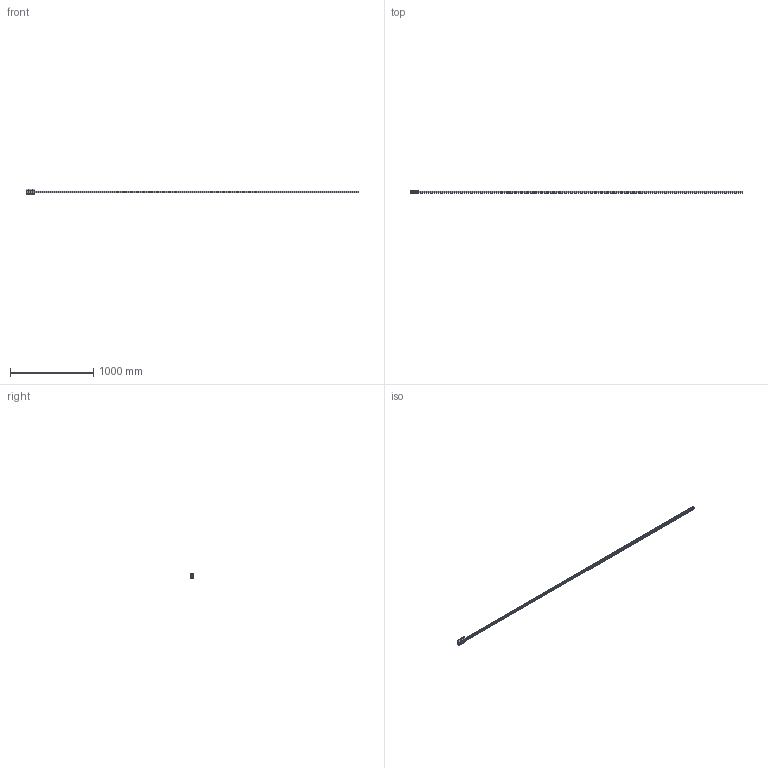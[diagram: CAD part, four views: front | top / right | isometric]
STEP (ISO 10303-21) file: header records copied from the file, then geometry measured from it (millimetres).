
FILE_DESCRIPTION( ( 'STEP AP203' ), '1' );
FILE_NAME( 'p:/temp/worker_7/temp/exporttempdir_536_406_EGZJu/format_0/FDA25 84363A_4000-0.stp', '2021-02-04T01:46:32', ( 'License CC BY-ND 4.0' ), ( 'CADENAS' ), ' ', 'PARTsolutions', ' ' );
FILE_SCHEMA( ( 'CONFIG_CONTROL_DESIGN' ) );
Length unit declared in the file: millimetre
Products named in the file (3): FDA25 84363A_4000-0; _FD_25K-4000-0; _FD_25K Rollenhalter
Assembly tree (2 placements, depth 2):
  FDA25 84363A_4000-0
    _FD_25K-4000-0
    _FD_25K Rollenhalter
Bounding box: 4000 x 36 x 70 mm (x, y, z)
Volume: 2068182.1 mm3; surface area: 570456.8 mm2
Topology: 2 solids, 2 shells, 698 faces, 1836 edges, 1242 vertices
Faces by surface type: plane 383, cylinder 304, torus 8, cone 3
Full cylindrical faces by diameter (mm): 4.2 x1, 6.6 x67, 6.647 x4, 8.5 x8, 9 x4, 10 x8, 11 x67
Entity records: 20649 total; most frequent: DIRECTION 3599, CARTESIAN_POINT 3519, ORIENTED_EDGE 3182, EDGE_CURVE 1591, AXIS2_PLACEMENT_3D 1318, VERTEX_POINT 1164, EDGE_LOOP 1109, LINE 963
